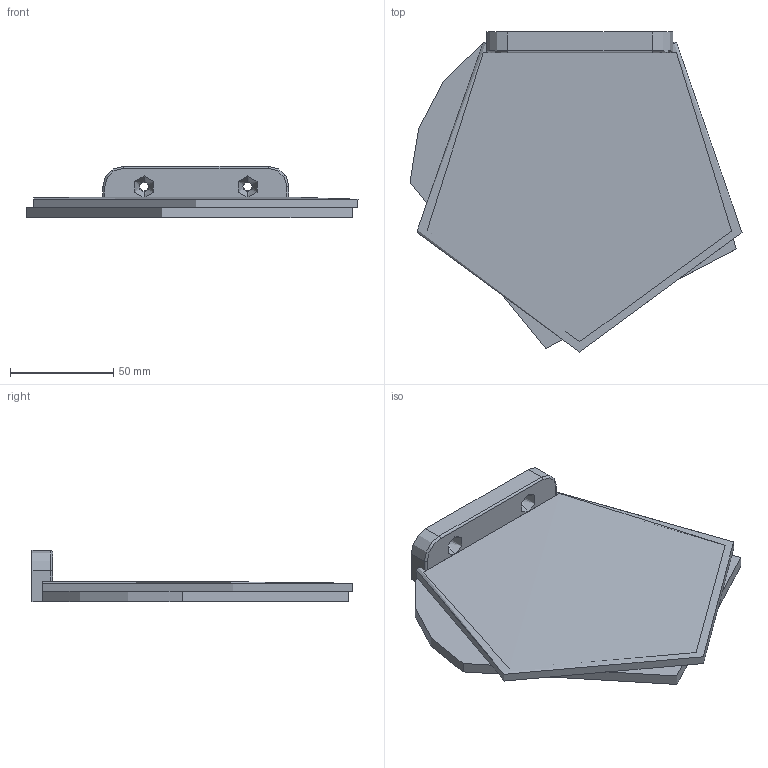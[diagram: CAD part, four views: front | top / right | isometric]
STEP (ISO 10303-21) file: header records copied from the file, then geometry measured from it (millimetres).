
FILE_DESCRIPTION(/* description */ (''),/* implementation_level */ '2;1');
FILE_NAME(/* name */ 'Regal klein ohne Winkel',/* time_stamp */ '2026-07-21T16:09:34+02:00',/* author */ (''),/* organization */ (''),/* preprocessor_version */ 'ST-DEVELOPER v19.2',/* originating_system */ 'Rhino 8.33',/* authorisation */ '');
FILE_SCHEMA (('CONFIG_CONTROL_DESIGN'));
Length unit declared in the file: millimetre
Products named in the file (1): Document
Bounding box: 160.78 x 155 x 25 mm (x, y, z)
Volume: 122659.4 mm3; surface area: 59648.5 mm2
Topology: 2 solids, 3 shells, 54 faces, 141 edges, 100 vertices
Faces by surface type: cylinder 21, plane 17, bspline 16
Entity records: 2311 total; most frequent: CARTESIAN_POINT 1055, ORIENTED_EDGE 266, DIRECTION 174, EDGE_CURVE 136, AXIS2_PLACEMENT_3D 105, VERTEX_POINT 86, EDGE_LOOP 64, CIRCLE 63
